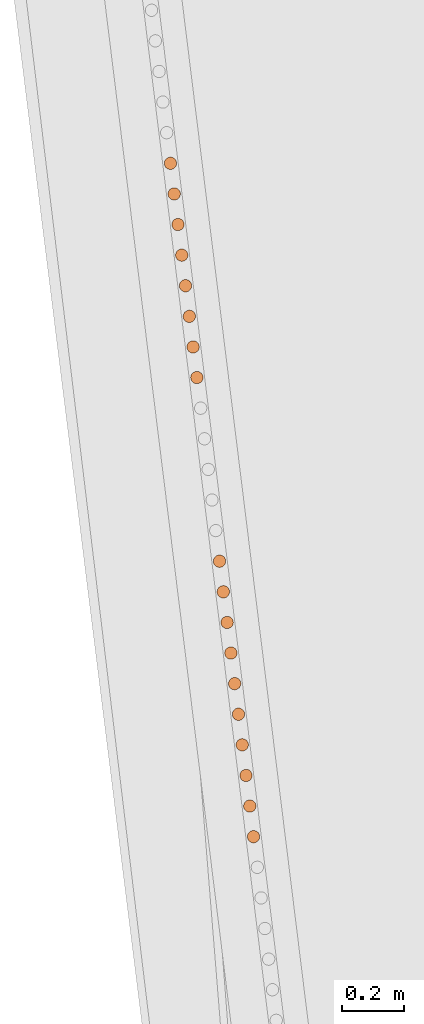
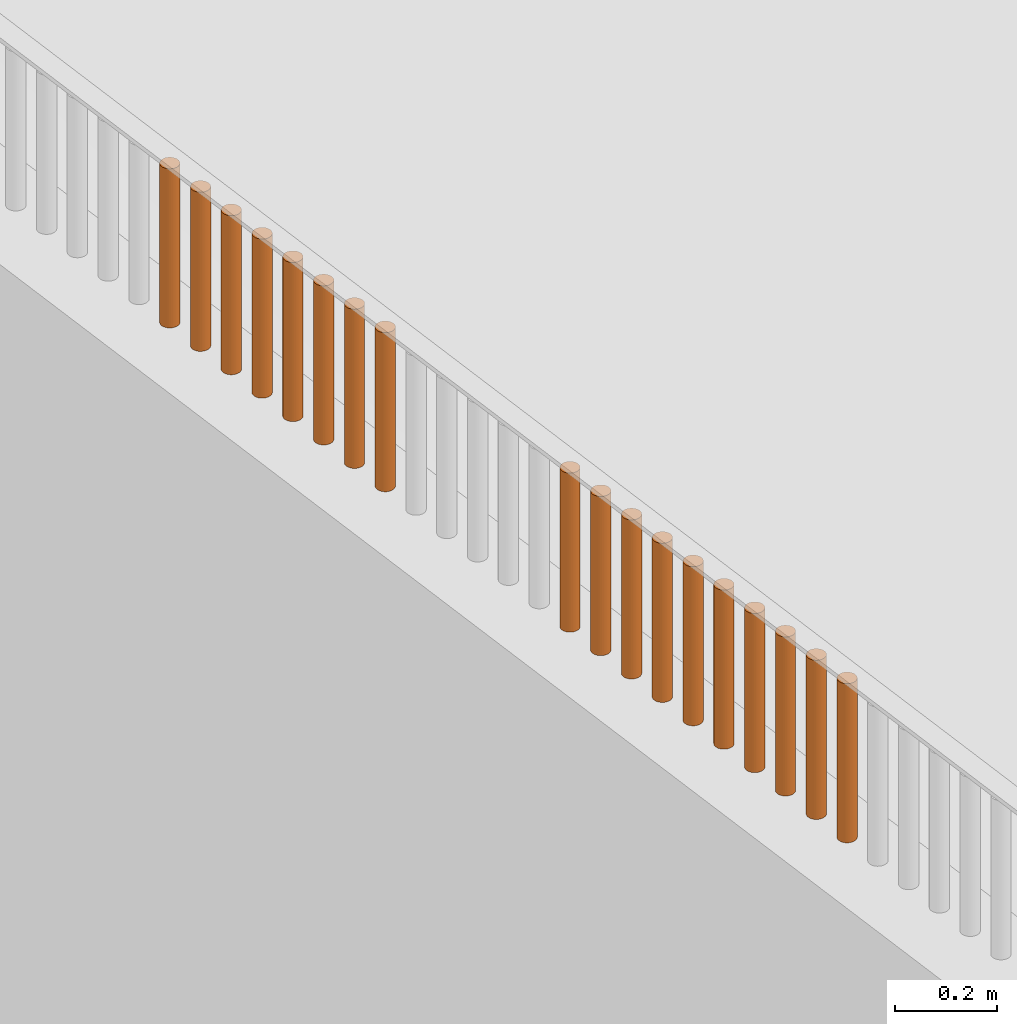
# One storey, part 61 of 1809: 18 proxies, 1 element without a shape of its own.
"""IFC2X3 building model written with IfcOpenShell, lengths in millimetres."""

from ifc_helpers import new_model, entity, si_unit, converted_unit, derived_unit, money_unit, direction, frame, origin_with_axes, place, context, subcontext, project, spatial, faceted_brep, source, transform, mapped, material, type_object, element, aggregate, save


model = new_model("IFC2X3")

# Units and contexts
model_context = context("Model", 3, precision=0.01, world=origin_with_axes(), true_north=direction((0.0, 1.0)))
body_context = subcontext(model_context, "Body", "Model", "MODEL_VIEW")
ifc_project = project(units=[si_unit("LENGTHUNIT", "METRE", prefix="MILLI"), si_unit("AREAUNIT", "SQUARE_METRE"), si_unit("VOLUMEUNIT", "CUBIC_METRE"), converted_unit("PLANEANGLEUNIT", "DEGREE", entity("IfcPlaneAngleMeasure", 0.0174532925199), si_unit("PLANEANGLEUNIT", "RADIAN"), dimensions=[0, 0, 0, 0, 0, 0, 0]), si_unit("SOLIDANGLEUNIT", "STERADIAN"), money_unit("EUR"), converted_unit("TIMEUNIT", "Year", entity("IfcTimeMeasure", 31556926.0), si_unit("TIMEUNIT", "SECOND"), dimensions=[0, 0, 1, 0, 0, 0, 0]), si_unit("MASSUNIT", "GRAM", prefix="KILO"), si_unit("THERMODYNAMICTEMPERATUREUNIT", "DEGREE_CELSIUS"), si_unit("LUMINOUSINTENSITYUNIT", "LUMEN"), si_unit("ENERGYUNIT", "JOULE", prefix="MEGA"), derived_unit("THERMALCONDUCTANCEUNIT", [(si_unit("POWERUNIT", "WATT"), 1), (si_unit("LENGTHUNIT", "METRE"), -1), (si_unit("THERMODYNAMICTEMPERATUREUNIT", "KELVIN"), -1)]), derived_unit("SPECIFICHEATCAPACITYUNIT", [(si_unit("ENERGYUNIT", "JOULE"), 1), (si_unit("MASSUNIT", "GRAM", prefix="KILO"), -1), (si_unit("THERMODYNAMICTEMPERATUREUNIT", "KELVIN"), -1)]), derived_unit("MASSDENSITYUNIT", [(si_unit("MASSUNIT", "GRAM", prefix="KILO"), 1), (si_unit("VOLUMEUNIT", "CUBIC_METRE"), -1)])], contexts=[model_context])

# Site, building, storey
site_placement = place(None, origin_with_axes())
site = spatial("IfcSite", under=ifc_project, at=site_placement, Name="Politse- ja Piirivalveameti ning Päästeameti ühishoone", CompositionType="ELEMENT")
building_placement = place(site_placement, origin_with_axes())
building = spatial("IfcBuilding", under=site, at=building_placement, Name="Politse- ja Piirivalveameti ning Päästeameti ühishoone", CompositionType="ELEMENT")
storey_placement = place(building_placement, origin_with_axes())
storey = spatial("IfcBuildingStorey", under=building, at=storey_placement, Name="Esimene korrus", CompositionType="ELEMENT", Elevation=0.0)

# Proxies
building_element_proxy_type_1 = type_object("IfcBuildingElementProxyType", Name="Railing Type", PredefinedType="NOTDEFINED")
proxy_1_placement = place(storey_placement, frame((-18956.5522504, -53688.4757966, 2100.0), z_axis=(0.0, 0.0, 1.0), x_axis=(1.0, 0.0, 0.0)))
proxy_1 = element("IfcBuildingElementProxy", 1, at=proxy_1_placement, inside=storey, type_object=building_element_proxy_type_1, Name="PIIRDEAED")
ifc_material = material(Name="ET-06_Teras - Konstruktsioon")
building_element_proxy_type_2 = type_object("IfcBuildingElementProxyType", Name="IfcBuildingElementProxy", PredefinedType="NOTDEFINED")
shared_shape_1 = source(origin_with_axes(), body_context, "Body", "Brep", [
    faceted_brep([(0.0, -20.0, 0.0), (3.47296355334, -19.6961550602, 0.0), (3.47296355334, -19.6961550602, 380.000012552), (0.0, -20.0, 380.000012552), (-3.47296355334, -19.6961550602, 0.0), (-6.84040286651, -18.7938524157, 0.0), (-10.0, -17.3205080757, 0.0), (-12.8557521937, -15.3208888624, 0.0), (-15.3208888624, -12.8557521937, 0.0), (-17.3205080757, -10.0, 0.0), (-18.7938524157, -6.84040286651, 0.0), (-19.6961550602, -3.47296355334, 0.0), (-20.0, 0.0, 0.0), (-19.6961550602, 3.47296355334, 0.0), (-18.7938524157, 6.84040286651, 0.0), (-17.3205080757, 10.0, 0.0), (-15.3208888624, 12.8557521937, 0.0), (-12.8557521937, 15.3208888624, 0.0), (-10.0, 17.3205080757, 0.0), (-6.84040286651, 18.7938524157, 0.0), (-3.47296355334, 19.6961550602, 0.0), (0.0, 20.0, 0.0), (3.47296355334, 19.6961550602, 0.0), (6.84040286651, 18.7938524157, 0.0), (10.0, 17.3205080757, 0.0), (12.8557521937, 15.3208888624, 0.0), (15.3208888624, 12.8557521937, 0.0), (17.3205080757, 10.0, 0.0), (18.7938524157, 6.84040286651, 0.0), (19.6961550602, 3.47296355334, 0.0), (20.0, 0.0, 0.0), (19.6961550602, -3.47296355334, 0.0), (18.7938524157, -6.84040286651, 0.0), (17.3205080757, -10.0, 0.0), (15.3208888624, -12.8557521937, 0.0), (12.8557521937, -15.3208888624, 0.0), (10.0, -17.3205080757, 0.0), (6.84040286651, -18.7938524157, 0.0), (6.84040286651, -18.7938524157, 380.000012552), (10.0, -17.3205080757, 380.000012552), (12.8557521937, -15.3208888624, 380.000012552), (15.3208888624, -12.8557521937, 380.000012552), (17.3205080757, -10.0, 380.000012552), (18.7938524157, -6.84040286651, 380.000012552), (19.6961550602, -3.47296355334, 380.000012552), (20.0, 0.0, 380.000012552), (19.6961550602, 3.47296355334, 380.000012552), (18.7938524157, 6.84040286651, 380.000012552), (17.3205080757, 10.0, 380.000012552), (15.3208888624, 12.8557521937, 380.000012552), (12.8557521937, 15.3208888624, 380.000012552), (10.0, 17.3205080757, 380.000012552), (6.84040286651, 18.7938524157, 380.000012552), (3.47296355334, 19.6961550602, 380.000012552), (0.0, 20.0, 380.000012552), (-3.47296355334, 19.6961550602, 380.000012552), (-6.84040286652, 18.7938524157, 380.000012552), (-10.0, 17.3205080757, 380.000012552), (-12.8557521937, 15.3208888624, 380.000012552), (-15.3208888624, 12.8557521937, 380.000012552), (-17.3205080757, 10.0, 380.000012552), (-18.7938524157, 6.84040286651, 380.000012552), (-19.6961550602, 3.47296355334, 380.000012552), (-20.0, 0.0, 380.000012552), (-19.6961550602, -3.47296355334, 380.000012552), (-18.7938524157, -6.84040286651, 380.000012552), (-17.3205080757, -10.0, 380.000012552), (-15.3208888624, -12.8557521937, 380.000012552), (-12.8557521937, -15.3208888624, 380.000012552), (-10.0, -17.3205080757, 380.000012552), (-6.84040286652, -18.7938524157, 380.000012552), (-3.47296355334, -19.6961550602, 380.000012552)], [[[0, 1, 2, 3]], [[0, 4, 5, 6, 7, 8, 9, 10, 11, 12, 13, 14, 15, 16, 17, 18, 19, 20, 21, 22, 23, 24, 25, 26, 27, 28, 29, 30, 31, 32, 33, 34, 35, 36, 37, 1]], [[1, 37, 38, 2]], [[3, 2, 38, 39, 40, 41, 42, 43, 44, 45, 46, 47, 48, 49, 50, 51, 52, 53, 54, 55, 56, 57, 58, 59, 60, 61, 62, 63, 64, 65, 66, 67, 68, 69, 70, 71]], [[4, 0, 3, 71]], [[5, 4, 71, 70]], [[6, 5, 70, 69]], [[7, 6, 69, 68]], [[8, 7, 68, 67]], [[9, 8, 67, 66]], [[10, 9, 66, 65]], [[11, 10, 65, 64]], [[12, 11, 64, 63]], [[13, 12, 63, 62]], [[14, 13, 62, 61]], [[15, 14, 61, 60]], [[16, 15, 60, 59]], [[17, 16, 59, 58]], [[18, 17, 58, 57]], [[19, 18, 57, 56]], [[20, 19, 56, 55]], [[21, 20, 55, 54]], [[22, 21, 54, 53]], [[23, 22, 53, 52]], [[24, 23, 52, 51]], [[25, 24, 51, 50]], [[26, 25, 50, 49]], [[27, 26, 49, 48]], [[28, 27, 48, 47]], [[29, 28, 47, 46]], [[30, 29, 46, 45]], [[31, 30, 45, 44]], [[32, 31, 44, 43]], [[33, 32, 43, 42]], [[34, 33, 42, 41]], [[35, 34, 41, 40]], [[36, 35, 40, 39]], [[37, 36, 39, 38]]]),
])
proxy_2_placement = place(proxy_1_placement, frame((-840.132842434, 5972.32366208, -1.25517001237e-05), z_axis=(0.0, 0.0, 1.0), x_axis=(1.0, 0.0, 0.0)))
proxy_2 = element("IfcBuildingElementProxy", 2, at=proxy_2_placement, type_object=building_element_proxy_type_2, material=ifc_material, Name="BALUSTER - 001", context=body_context, shape_type="MappedRepresentation", body=[
    mapped(shared_shape_1, transform((0.0, 0.0, 0.0), x_axis=(0.992468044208, 0.122503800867, 0.0), y_axis=(-0.122503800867, 0.992468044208, 0.0), z_axis=(0.0, 0.0, 1.0))),
])
proxy_3_placement = place(proxy_1_placement, frame((-876.875957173, 6269.99905636, -1.25517001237e-05), z_axis=(0.0, 0.0, 1.0), x_axis=(1.0, 0.0, 0.0)))
proxy_3 = element("IfcBuildingElementProxy", 3, at=proxy_3_placement, type_object=building_element_proxy_type_2, material=ifc_material, Name="BALUSTER - 001", context=body_context, shape_type="MappedRepresentation", body=[
    mapped(shared_shape_1, transform((0.0, 0.0, 0.0), x_axis=(0.992468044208, 0.122503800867, 0.0), y_axis=(-0.122503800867, 0.992468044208, 0.0), z_axis=(0.0, 0.0, 1.0))),
])
proxy_4_placement = place(proxy_1_placement, frame((-1023.84841613, 7460.70063347, -1.25517001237e-05), z_axis=(0.0, 0.0, 1.0), x_axis=(1.0, 0.0, 0.0)))
proxy_4 = element("IfcBuildingElementProxy", 4, at=proxy_4_placement, type_object=building_element_proxy_type_2, material=ifc_material, Name="BALUSTER - 001", context=body_context, shape_type="MappedRepresentation", body=[
    mapped(shared_shape_1, transform((0.0, 0.0, 0.0), x_axis=(0.992468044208, 0.122503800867, 0.0), y_axis=(-0.122503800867, 0.992468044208, 0.0), z_axis=(0.0, 0.0, 1.0))),
])
proxy_5_placement = place(proxy_1_placement, frame((-1060.59153087, 7758.37602774, -1.25517001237e-05), z_axis=(0.0, 0.0, 1.0), x_axis=(1.0, 0.0, 0.0)))
proxy_5 = element("IfcBuildingElementProxy", 5, at=proxy_5_placement, type_object=building_element_proxy_type_2, material=ifc_material, Name="BALUSTER - 001", context=body_context, shape_type="MappedRepresentation", body=[
    mapped(shared_shape_1, transform((0.0, 0.0, 0.0), x_axis=(0.992468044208, 0.122503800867, 0.0), y_axis=(-0.122503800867, 0.992468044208, 0.0), z_axis=(0.0, 0.0, 1.0))),
])
shared_shape_2 = source(origin_with_axes(), body_context, "Body", "Brep", [
    faceted_brep([(0.0, -20.0, 0.0), (3.47296355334, -19.6961550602, 0.0), (3.47296355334, -19.6961550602, 380.000012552), (0.0, -20.0, 380.000012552), (-3.47296355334, -19.6961550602, 0.0), (-6.84040286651, -18.7938524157, 0.0), (-10.0, -17.3205080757, 0.0), (-12.8557521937, -15.3208888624, 0.0), (-15.3208888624, -12.8557521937, 0.0), (-17.3205080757, -10.0, 0.0), (-18.7938524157, -6.84040286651, 0.0), (-19.6961550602, -3.47296355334, 0.0), (-20.0, 0.0, 0.0), (-19.6961550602, 3.47296355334, 0.0), (-18.7938524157, 6.84040286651, 0.0), (-17.3205080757, 10.0, 0.0), (-15.3208888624, 12.8557521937, 0.0), (-12.8557521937, 15.3208888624, 0.0), (-10.0, 17.3205080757, 0.0), (-6.84040286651, 18.7938524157, 0.0), (-3.47296355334, 19.6961550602, 0.0), (0.0, 20.0, 0.0), (3.47296355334, 19.6961550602, 0.0), (6.84040286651, 18.7938524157, 0.0), (10.0, 17.3205080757, 0.0), (12.8557521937, 15.3208888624, 0.0), (15.3208888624, 12.8557521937, 0.0), (17.3205080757, 10.0, 0.0), (18.7938524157, 6.84040286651, 0.0), (19.6961550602, 3.47296355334, 0.0), (20.0, 0.0, 0.0), (19.6961550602, -3.47296355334, 0.0), (18.7938524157, -6.84040286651, 0.0), (17.3205080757, -10.0, 0.0), (15.3208888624, -12.8557521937, 0.0), (12.8557521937, -15.3208888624, 0.0), (10.0, -17.3205080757, 0.0), (6.84040286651, -18.7938524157, 0.0), (6.84040286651, -18.7938524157, 380.000012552), (10.0, -17.3205080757, 380.000012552), (12.8557521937, -15.3208888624, 380.000012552), (15.3208888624, -12.8557521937, 380.000012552), (17.3205080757, -10.0, 380.000012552), (18.7938524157, -6.84040286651, 380.000012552), (19.6961550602, -3.47296355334, 380.000012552), (20.0, 0.0, 380.000012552), (19.6961550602, 3.47296355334, 380.000012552), (18.7938524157, 6.84040286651, 380.000012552), (17.3205080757, 10.0, 380.000012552), (15.3208888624, 12.8557521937, 380.000012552), (12.8557521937, 15.3208888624, 380.000012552), (10.0, 17.3205080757, 380.000012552), (6.84040286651, 18.7938524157, 380.000012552), (3.47296355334, 19.6961550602, 380.000012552), (0.0, 20.0, 380.000012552), (-3.47296355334, 19.6961550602, 380.000012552), (-6.84040286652, 18.7938524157, 380.000012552), (-10.0, 17.3205080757, 380.000012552), (-12.8557521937, 15.3208888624, 380.000012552), (-15.3208888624, 12.8557521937, 380.000012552), (-17.3205080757, 10.0, 380.000012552), (-18.7938524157, 6.84040286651, 380.000012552), (-19.6961550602, 3.47296355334, 380.000012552), (-20.0, 0.0, 380.000012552), (-19.6961550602, -3.47296355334, 380.000012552), (-18.7938524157, -6.84040286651, 380.000012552), (-17.3205080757, -10.0, 380.000012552), (-15.3208888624, -12.8557521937, 380.000012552), (-12.8557521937, -15.3208888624, 380.000012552), (-10.0, -17.3205080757, 380.000012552), (-6.84040286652, -18.7938524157, 380.000012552), (-3.47296355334, -19.6961550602, 380.000012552)], [[[0, 1, 2, 3]], [[0, 4, 5, 6, 7, 8, 9, 10, 11, 12, 13, 14, 15, 16, 17, 18, 19, 20, 21, 22, 23, 24, 25, 26, 27, 28, 29, 30, 31, 32, 33, 34, 35, 36, 37, 1]], [[1, 37, 38, 2]], [[3, 2, 38, 39, 40, 41, 42, 43, 44, 45, 46, 47, 48, 49, 50, 51, 52, 53, 54, 55, 56, 57, 58, 59, 60, 61, 62, 63, 64, 65, 66, 67, 68, 69, 70, 71]], [[4, 0, 3, 71]], [[5, 4, 71, 70]], [[6, 5, 70, 69]], [[7, 6, 69, 68]], [[8, 7, 68, 67]], [[9, 8, 67, 66]], [[10, 9, 66, 65]], [[11, 10, 65, 64]], [[12, 11, 64, 63]], [[13, 12, 63, 62]], [[14, 13, 62, 61]], [[15, 14, 61, 60]], [[16, 15, 60, 59]], [[17, 16, 59, 58]], [[18, 17, 58, 57]], [[19, 18, 57, 56]], [[20, 19, 56, 55]], [[21, 20, 55, 54]], [[22, 21, 54, 53]], [[23, 22, 53, 52]], [[24, 23, 52, 51]], [[25, 24, 51, 50]], [[26, 25, 50, 49]], [[27, 26, 49, 48]], [[28, 27, 48, 47]], [[29, 28, 47, 46]], [[30, 29, 46, 45]], [[31, 30, 45, 44]], [[32, 31, 44, 43]], [[33, 32, 43, 42]], [[34, 33, 42, 41]], [[35, 34, 41, 40]], [[36, 35, 40, 39]], [[37, 36, 39, 38]]]),
])
proxy_6_placement = place(proxy_1_placement, frame((-901.371367, 6468.44931921, -1.25517001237e-05), z_axis=(0.0, 0.0, 1.0), x_axis=(1.0, 0.0, 0.0)))
proxy_6 = element("IfcBuildingElementProxy", 6, at=proxy_6_placement, type_object=building_element_proxy_type_2, material=ifc_material, Name="BALUSTER - 001", context=body_context, shape_type="MappedRepresentation", body=[
    mapped(shared_shape_2, transform((0.0, 0.0, 0.0), x_axis=(0.992468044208, 0.122503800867, 0.0), y_axis=(-0.122503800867, 0.992468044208, 0.0), z_axis=(0.0, 0.0, 1.0))),
])
proxy_7_placement = place(proxy_1_placement, frame((-913.619071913, 6567.67445064, -1.25517001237e-05), z_axis=(0.0, 0.0, 1.0), x_axis=(1.0, 0.0, 0.0)))
proxy_7 = element("IfcBuildingElementProxy", 7, at=proxy_7_placement, type_object=building_element_proxy_type_2, material=ifc_material, Name="BALUSTER - 001", context=body_context, shape_type="MappedRepresentation", body=[
    mapped(shared_shape_2, transform((0.0, 0.0, 0.0), x_axis=(0.992468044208, 0.122503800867, 0.0), y_axis=(-0.122503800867, 0.992468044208, 0.0), z_axis=(0.0, 0.0, 1.0))),
])
proxy_8_placement = place(proxy_1_placement, frame((-938.114481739, 6766.12471349, -1.25517001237e-05), z_axis=(0.0, 0.0, 1.0), x_axis=(1.0, 0.0, 0.0)))
proxy_8 = element("IfcBuildingElementProxy", 8, at=proxy_8_placement, type_object=building_element_proxy_type_2, material=ifc_material, Name="BALUSTER - 001", context=body_context, shape_type="MappedRepresentation", body=[
    mapped(shared_shape_2, transform((0.0, 0.0, 0.0), x_axis=(0.992468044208, 0.122503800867, 0.0), y_axis=(-0.122503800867, 0.992468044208, 0.0), z_axis=(0.0, 0.0, 1.0))),
])
proxy_9_placement = place(proxy_1_placement, frame((-950.362186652, 6865.34984491, -1.25517001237e-05), z_axis=(0.0, 0.0, 1.0), x_axis=(1.0, 0.0, 0.0)))
proxy_9 = element("IfcBuildingElementProxy", 9, at=proxy_9_placement, type_object=building_element_proxy_type_2, material=ifc_material, Name="BALUSTER - 001", context=body_context, shape_type="MappedRepresentation", body=[
    mapped(shared_shape_2, transform((0.0, 0.0, 0.0), x_axis=(0.992468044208, 0.122503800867, 0.0), y_axis=(-0.122503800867, 0.992468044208, 0.0), z_axis=(0.0, 0.0, 1.0))),
])
proxy_10_placement = place(proxy_1_placement, frame((-1072.83923578, 7857.60115917, -1.25517001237e-05), z_axis=(0.0, 0.0, 1.0), x_axis=(1.0, 0.0, 0.0)))
proxy_10 = element("IfcBuildingElementProxy", 10, at=proxy_10_placement, type_object=building_element_proxy_type_2, material=ifc_material, Name="BALUSTER - 001", context=body_context, shape_type="MappedRepresentation", body=[
    mapped(shared_shape_2, transform((0.0, 0.0, 0.0), x_axis=(0.992468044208, 0.122503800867, 0.0), y_axis=(-0.122503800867, 0.992468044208, 0.0), z_axis=(0.0, 0.0, 1.0))),
])
proxy_11_placement = place(proxy_1_placement, frame((-1085.0869407, 7956.82629059, -1.25517001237e-05), z_axis=(0.0, 0.0, 1.0), x_axis=(1.0, 0.0, 0.0)))
proxy_11 = element("IfcBuildingElementProxy", 11, at=proxy_11_placement, type_object=building_element_proxy_type_2, material=ifc_material, Name="BALUSTER - 001", context=body_context, shape_type="MappedRepresentation", body=[
    mapped(shared_shape_2, transform((0.0, 0.0, 0.0), x_axis=(0.992468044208, 0.122503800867, 0.0), y_axis=(-0.122503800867, 0.992468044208, 0.0), z_axis=(0.0, 0.0, 1.0))),
])
proxy_12_placement = place(proxy_1_placement, frame((-1109.58235052, 8155.27655344, -1.25517001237e-05), z_axis=(0.0, 0.0, 1.0), x_axis=(1.0, 0.0, 0.0)))
proxy_12 = element("IfcBuildingElementProxy", 12, at=proxy_12_placement, type_object=building_element_proxy_type_2, material=ifc_material, Name="BALUSTER - 001", context=body_context, shape_type="MappedRepresentation", body=[
    mapped(shared_shape_2, transform((0.0, 0.0, 0.0), x_axis=(0.992468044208, 0.122503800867, 0.0), y_axis=(-0.122503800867, 0.992468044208, 0.0), z_axis=(0.0, 0.0, 1.0))),
])
shared_shape_3 = source(origin_with_axes(), body_context, "Body", "Brep", [
    faceted_brep([(0.0, -20.0, 0.0), (3.47296355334, -19.6961550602, 0.0), (3.47296355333, -19.6961550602, 380.000012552), (0.0, -20.0, 380.000012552), (-3.47296355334, -19.6961550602, 0.0), (-6.84040286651, -18.7938524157, 0.0), (-10.0, -17.3205080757, 0.0), (-12.8557521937, -15.3208888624, 0.0), (-15.3208888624, -12.8557521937, 0.0), (-17.3205080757, -10.0, 0.0), (-18.7938524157, -6.84040286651, 0.0), (-19.6961550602, -3.47296355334, 0.0), (-20.0, 0.0, 0.0), (-19.6961550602, 3.47296355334, 0.0), (-18.7938524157, 6.84040286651, 0.0), (-17.3205080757, 10.0, 0.0), (-15.3208888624, 12.8557521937, 0.0), (-12.8557521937, 15.3208888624, 0.0), (-10.0, 17.3205080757, 0.0), (-6.84040286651, 18.7938524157, 0.0), (-3.47296355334, 19.6961550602, 0.0), (0.0, 20.0, 0.0), (3.47296355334, 19.6961550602, 0.0), (6.84040286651, 18.7938524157, 0.0), (10.0, 17.3205080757, 0.0), (12.8557521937, 15.3208888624, 0.0), (15.3208888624, 12.8557521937, 0.0), (17.3205080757, 10.0, 0.0), (18.7938524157, 6.84040286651, 0.0), (19.6961550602, 3.47296355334, 0.0), (20.0, 0.0, 0.0), (19.6961550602, -3.47296355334, 0.0), (18.7938524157, -6.84040286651, 0.0), (17.3205080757, -10.0, 0.0), (15.3208888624, -12.8557521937, 0.0), (12.8557521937, -15.3208888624, 0.0), (10.0, -17.3205080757, 0.0), (6.84040286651, -18.7938524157, 0.0), (6.84040286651, -18.7938524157, 380.000012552), (9.99999999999, -17.3205080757, 380.000012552), (12.8557521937, -15.3208888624, 380.000012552), (15.3208888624, -12.8557521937, 380.000012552), (17.3205080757, -10.0, 380.000012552), (18.7938524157, -6.84040286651, 380.000012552), (19.6961550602, -3.47296355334, 380.000012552), (20.0, 0.0, 380.000012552), (19.6961550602, 3.47296355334, 380.000012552), (18.7938524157, 6.84040286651, 380.000012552), (17.3205080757, 10.0, 380.000012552), (15.3208888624, 12.8557521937, 380.000012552), (12.8557521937, 15.3208888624, 380.000012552), (9.99999999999, 17.3205080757, 380.000012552), (6.84040286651, 18.7938524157, 380.000012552), (3.47296355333, 19.6961550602, 380.000012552), (0.0, 20.0, 380.000012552), (-3.47296355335, 19.6961550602, 380.000012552), (-6.84040286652, 18.7938524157, 380.000012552), (-10.0, 17.3205080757, 380.000012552), (-12.8557521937, 15.3208888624, 380.000012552), (-15.3208888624, 12.8557521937, 380.000012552), (-17.3205080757, 10.0, 380.000012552), (-18.7938524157, 6.84040286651, 380.000012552), (-19.6961550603, 3.47296355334, 380.000012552), (-20.0, 0.0, 380.000012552), (-19.6961550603, -3.47296355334, 380.000012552), (-18.7938524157, -6.84040286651, 380.000012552), (-17.3205080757, -10.0, 380.000012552), (-15.3208888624, -12.8557521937, 380.000012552), (-12.8557521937, -15.3208888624, 380.000012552), (-10.0, -17.3205080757, 380.000012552), (-6.84040286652, -18.7938524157, 380.000012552), (-3.47296355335, -19.6961550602, 380.000012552)], [[[0, 1, 2, 3]], [[0, 4, 5, 6, 7, 8, 9, 10, 11, 12, 13, 14, 15, 16, 17, 18, 19, 20, 21, 22, 23, 24, 25, 26, 27, 28, 29, 30, 31, 32, 33, 34, 35, 36, 37, 1]], [[1, 37, 38, 2]], [[3, 2, 38, 39, 40, 41, 42, 43, 44, 45, 46, 47, 48, 49, 50, 51, 52, 53, 54, 55, 56, 57, 58, 59, 60, 61, 62, 63, 64, 65, 66, 67, 68, 69, 70, 71]], [[4, 0, 3, 71]], [[5, 4, 71, 70]], [[6, 5, 70, 69]], [[7, 6, 69, 68]], [[8, 7, 68, 67]], [[9, 8, 67, 66]], [[10, 9, 66, 65]], [[11, 10, 65, 64]], [[12, 11, 64, 63]], [[13, 12, 63, 62]], [[14, 13, 62, 61]], [[15, 14, 61, 60]], [[16, 15, 60, 59]], [[17, 16, 59, 58]], [[18, 17, 58, 57]], [[19, 18, 57, 56]], [[20, 19, 56, 55]], [[21, 20, 55, 54]], [[22, 21, 54, 53]], [[23, 22, 53, 52]], [[24, 23, 52, 51]], [[25, 24, 51, 50]], [[26, 25, 50, 49]], [[27, 26, 49, 48]], [[28, 27, 48, 47]], [[29, 28, 47, 46]], [[30, 29, 46, 45]], [[31, 30, 45, 44]], [[32, 31, 44, 43]], [[33, 32, 43, 42]], [[34, 33, 42, 41]], [[35, 34, 41, 40]], [[36, 35, 40, 39]], [[37, 36, 39, 38]]]),
])
proxy_13_placement = place(proxy_1_placement, frame((-1036.09612104, 7559.92576489, -1.25517001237e-05), z_axis=(0.0, 0.0, 1.0), x_axis=(1.0, 0.0, 0.0)))
proxy_13 = element("IfcBuildingElementProxy", 13, at=proxy_13_placement, type_object=building_element_proxy_type_2, material=ifc_material, Name="BALUSTER - 001", context=body_context, shape_type="MappedRepresentation", body=[
    mapped(shared_shape_3, transform((0.0, 0.0, 0.0), x_axis=(0.992468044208, 0.122503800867, 0.0), y_axis=(-0.122503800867, 0.992468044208, 0.0), z_axis=(0.0, 0.0, 1.0))),
])
shared_shape_4 = source(origin_with_axes(), body_context, "Body", "Brep", [
    faceted_brep([(0.0, -20.0, 0.0), (3.47296355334, -19.6961550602, 0.0), (3.47296355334, -19.6961550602, 380.000012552), (0.0, -20.0, 380.000012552), (-3.47296355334, -19.6961550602, 0.0), (-6.84040286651, -18.7938524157, 0.0), (-10.0, -17.3205080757, 0.0), (-12.8557521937, -15.3208888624, 0.0), (-15.3208888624, -12.8557521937, 0.0), (-17.3205080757, -10.0, 0.0), (-18.7938524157, -6.84040286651, 0.0), (-19.6961550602, -3.47296355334, 0.0), (-20.0, 0.0, 0.0), (-19.6961550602, 3.47296355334, 0.0), (-18.7938524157, 6.84040286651, 0.0), (-17.3205080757, 10.0, 0.0), (-15.3208888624, 12.8557521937, 0.0), (-12.8557521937, 15.3208888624, 0.0), (-10.0, 17.3205080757, 0.0), (-6.84040286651, 18.7938524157, 0.0), (-3.47296355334, 19.6961550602, 0.0), (0.0, 20.0, 0.0), (3.47296355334, 19.6961550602, 0.0), (6.84040286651, 18.7938524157, 0.0), (10.0, 17.3205080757, 0.0), (12.8557521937, 15.3208888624, 0.0), (15.3208888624, 12.8557521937, 0.0), (17.3205080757, 10.0, 0.0), (18.7938524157, 6.84040286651, 0.0), (19.6961550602, 3.47296355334, 0.0), (20.0, 0.0, 0.0), (19.6961550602, -3.47296355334, 0.0), (18.7938524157, -6.84040286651, 0.0), (17.3205080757, -10.0, 0.0), (15.3208888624, -12.8557521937, 0.0), (12.8557521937, -15.3208888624, 0.0), (10.0, -17.3205080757, 0.0), (6.84040286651, -18.7938524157, 0.0), (6.84040286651, -18.7938524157, 380.000012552), (10.0, -17.3205080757, 380.000012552), (12.8557521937, -15.3208888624, 380.000012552), (15.3208888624, -12.8557521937, 380.000012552), (17.3205080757, -10.0, 380.000012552), (18.7938524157, -6.84040286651, 380.000012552), (19.6961550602, -3.47296355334, 380.000012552), (20.0, 0.0, 380.000012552), (19.6961550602, 3.47296355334, 380.000012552), (18.7938524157, 6.84040286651, 380.000012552), (17.3205080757, 10.0, 380.000012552), (15.3208888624, 12.8557521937, 380.000012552), (12.8557521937, 15.3208888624, 380.000012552), (10.0, 17.3205080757, 380.000012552), (6.84040286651, 18.7938524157, 380.000012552), (3.47296355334, 19.6961550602, 380.000012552), (0.0, 20.0, 380.000012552), (-3.47296355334, 19.6961550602, 380.000012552), (-6.84040286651, 18.7938524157, 380.000012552), (-10.0, 17.3205080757, 380.000012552), (-12.8557521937, 15.3208888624, 380.000012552), (-15.3208888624, 12.8557521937, 380.000012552), (-17.3205080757, 10.0, 380.000012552), (-18.7938524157, 6.84040286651, 380.000012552), (-19.6961550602, 3.47296355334, 380.000012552), (-20.0, 0.0, 380.000012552), (-19.6961550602, -3.47296355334, 380.000012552), (-18.7938524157, -6.84040286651, 380.000012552), (-17.3205080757, -10.0, 380.000012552), (-15.3208888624, -12.8557521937, 380.000012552), (-12.8557521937, -15.3208888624, 380.000012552), (-10.0, -17.3205080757, 380.000012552), (-6.84040286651, -18.7938524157, 380.000012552), (-3.47296355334, -19.6961550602, 380.000012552)], [[[0, 1, 2, 3]], [[0, 4, 5, 6, 7, 8, 9, 10, 11, 12, 13, 14, 15, 16, 17, 18, 19, 20, 21, 22, 23, 24, 25, 26, 27, 28, 29, 30, 31, 32, 33, 34, 35, 36, 37, 1]], [[1, 37, 38, 2]], [[3, 2, 38, 39, 40, 41, 42, 43, 44, 45, 46, 47, 48, 49, 50, 51, 52, 53, 54, 55, 56, 57, 58, 59, 60, 61, 62, 63, 64, 65, 66, 67, 68, 69, 70, 71]], [[4, 0, 3, 71]], [[5, 4, 71, 70]], [[6, 5, 70, 69]], [[7, 6, 69, 68]], [[8, 7, 68, 67]], [[9, 8, 67, 66]], [[10, 9, 66, 65]], [[11, 10, 65, 64]], [[12, 11, 64, 63]], [[13, 12, 63, 62]], [[14, 13, 62, 61]], [[15, 14, 61, 60]], [[16, 15, 60, 59]], [[17, 16, 59, 58]], [[18, 17, 58, 57]], [[19, 18, 57, 56]], [[20, 19, 56, 55]], [[21, 20, 55, 54]], [[22, 21, 54, 53]], [[23, 22, 53, 52]], [[24, 23, 52, 51]], [[25, 24, 51, 50]], [[26, 25, 50, 49]], [[27, 26, 49, 48]], [[28, 27, 48, 47]], [[29, 28, 47, 46]], [[30, 29, 46, 45]], [[31, 30, 45, 44]], [[32, 31, 44, 43]], [[33, 32, 43, 42]], [[34, 33, 42, 41]], [[35, 34, 41, 40]], [[36, 35, 40, 39]], [[37, 36, 39, 38]]]),
])
proxy_14_placement = place(proxy_1_placement, frame((-852.380547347, 6071.54879351, -1.25517001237e-05), z_axis=(0.0, 0.0, 1.0), x_axis=(1.0, 0.0, 0.0)))
proxy_14 = element("IfcBuildingElementProxy", 14, at=proxy_14_placement, type_object=building_element_proxy_type_2, material=ifc_material, Name="BALUSTER - 001", context=body_context, shape_type="MappedRepresentation", body=[
    mapped(shared_shape_4, transform((0.0, 0.0, 0.0), x_axis=(0.992468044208, 0.122503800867, 0.0), y_axis=(-0.122503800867, 0.992468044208, 0.0), z_axis=(0.0, 0.0, 1.0))),
])
proxy_15_placement = place(proxy_1_placement, frame((-1048.34382596, 7659.15089632, -1.25517001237e-05), z_axis=(0.0, 0.0, 1.0), x_axis=(1.0, 0.0, 0.0)))
proxy_15 = element("IfcBuildingElementProxy", 15, at=proxy_15_placement, type_object=building_element_proxy_type_2, material=ifc_material, Name="BALUSTER - 001", context=body_context, shape_type="MappedRepresentation", body=[
    mapped(shared_shape_4, transform((0.0, 0.0, 0.0), x_axis=(0.992468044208, 0.122503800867, 0.0), y_axis=(-0.122503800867, 0.992468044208, 0.0), z_axis=(0.0, 0.0, 1.0))),
])
proxy_16_placement = place(proxy_1_placement, frame((-1097.33464561, 8056.05142202, -1.25517001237e-05), z_axis=(0.0, 0.0, 1.0), x_axis=(1.0, 0.0, 0.0)))
proxy_16 = element("IfcBuildingElementProxy", 16, at=proxy_16_placement, type_object=building_element_proxy_type_2, material=ifc_material, Name="BALUSTER - 001", context=body_context, shape_type="MappedRepresentation", body=[
    mapped(shared_shape_4, transform((0.0, 0.0, 0.0), x_axis=(0.992468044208, 0.122503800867, 0.0), y_axis=(-0.122503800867, 0.992468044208, 0.0), z_axis=(0.0, 0.0, 1.0))),
])
shared_shape_5 = source(origin_with_axes(), body_context, "Body", "Brep", [
    faceted_brep([(0.0, -20.0, 0.0), (3.47296355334, -19.6961550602, 0.0), (3.47296355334, -19.6961550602, 380.000012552), (0.0, -20.0, 380.000012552), (-3.47296355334, -19.6961550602, 0.0), (-6.84040286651, -18.7938524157, 0.0), (-10.0, -17.3205080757, 0.0), (-12.8557521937, -15.3208888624, 0.0), (-15.3208888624, -12.8557521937, 0.0), (-17.3205080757, -10.0, 0.0), (-18.7938524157, -6.84040286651, 0.0), (-19.6961550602, -3.47296355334, 0.0), (-20.0, 0.0, 0.0), (-19.6961550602, 3.47296355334, 0.0), (-18.7938524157, 6.84040286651, 0.0), (-17.3205080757, 10.0, 0.0), (-15.3208888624, 12.8557521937, 0.0), (-12.8557521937, 15.3208888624, 0.0), (-10.0, 17.3205080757, 0.0), (-6.84040286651, 18.7938524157, 0.0), (-3.47296355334, 19.6961550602, 0.0), (0.0, 20.0, 0.0), (3.47296355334, 19.6961550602, 0.0), (6.84040286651, 18.7938524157, 0.0), (10.0, 17.3205080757, 0.0), (12.8557521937, 15.3208888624, 0.0), (15.3208888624, 12.8557521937, 0.0), (17.3205080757, 10.0, 0.0), (18.7938524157, 6.84040286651, 0.0), (19.6961550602, 3.47296355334, 0.0), (20.0, 0.0, 0.0), (19.6961550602, -3.47296355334, 0.0), (18.7938524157, -6.84040286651, 0.0), (17.3205080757, -10.0, 0.0), (15.3208888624, -12.8557521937, 0.0), (12.8557521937, -15.3208888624, 0.0), (10.0, -17.3205080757, 0.0), (6.84040286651, -18.7938524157, 0.0), (6.84040286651, -18.7938524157, 380.000012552), (10.0, -17.3205080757, 380.000012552), (12.8557521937, -15.3208888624, 380.000012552), (15.3208888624, -12.8557521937, 380.000012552), (17.3205080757, -10.0, 380.000012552), (18.7938524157, -6.84040286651, 380.000012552), (19.6961550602, -3.47296355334, 380.000012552), (20.0, 0.0, 380.000012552), (19.6961550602, 3.47296355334, 380.000012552), (18.7938524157, 6.84040286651, 380.000012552), (17.3205080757, 10.0, 380.000012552), (15.3208888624, 12.8557521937, 380.000012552), (12.8557521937, 15.3208888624, 380.000012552), (10.0, 17.3205080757, 380.000012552), (6.84040286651, 18.7938524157, 380.000012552), (3.47296355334, 19.6961550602, 380.000012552), (0.0, 20.0, 380.000012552), (-3.47296355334, 19.6961550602, 380.000012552), (-6.84040286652, 18.7938524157, 380.000012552), (-10.0, 17.3205080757, 380.000012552), (-12.8557521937, 15.3208888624, 380.000012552), (-15.3208888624, 12.8557521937, 380.000012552), (-17.3205080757, 10.0, 380.000012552), (-18.7938524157, 6.84040286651, 380.000012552), (-19.6961550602, 3.47296355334, 380.000012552), (-20.0, 0.0, 380.000012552), (-19.6961550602, -3.47296355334, 380.000012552), (-18.7938524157, -6.84040286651, 380.000012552), (-17.3205080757, -10.0, 380.000012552), (-15.3208888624, -12.8557521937, 380.000012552), (-12.8557521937, -15.3208888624, 380.000012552), (-10.0, -17.3205080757, 380.000012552), (-6.84040286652, -18.7938524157, 380.000012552), (-3.47296355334, -19.6961550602, 380.000012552)], [[[0, 1, 2, 3]], [[0, 4, 5, 6, 7, 8, 9, 10, 11, 12, 13, 14, 15, 16, 17, 18, 19, 20, 21, 22, 23, 24, 25, 26, 27, 28, 29, 30, 31, 32, 33, 34, 35, 36, 37, 1]], [[1, 37, 38, 2]], [[3, 2, 38, 39, 40, 41, 42, 43, 44, 45, 46, 47, 48, 49, 50, 51, 52, 53, 54, 55, 56, 57, 58, 59, 60, 61, 62, 63, 64, 65, 66, 67, 68, 69, 70, 71]], [[4, 0, 3, 71]], [[5, 4, 71, 70]], [[6, 5, 70, 69]], [[7, 6, 69, 68]], [[8, 7, 68, 67]], [[9, 8, 67, 66]], [[10, 9, 66, 65]], [[11, 10, 65, 64]], [[12, 11, 64, 63]], [[13, 12, 63, 62]], [[14, 13, 62, 61]], [[15, 14, 61, 60]], [[16, 15, 60, 59]], [[17, 16, 59, 58]], [[18, 17, 58, 57]], [[19, 18, 57, 56]], [[20, 19, 56, 55]], [[21, 20, 55, 54]], [[22, 21, 54, 53]], [[23, 22, 53, 52]], [[24, 23, 52, 51]], [[25, 24, 51, 50]], [[26, 25, 50, 49]], [[27, 26, 49, 48]], [[28, 27, 48, 47]], [[29, 28, 47, 46]], [[30, 29, 46, 45]], [[31, 30, 45, 44]], [[32, 31, 44, 43]], [[33, 32, 43, 42]], [[34, 33, 42, 41]], [[35, 34, 41, 40]], [[36, 35, 40, 39]], [[37, 36, 39, 38]]]),
])
proxy_17_placement = place(proxy_1_placement, frame((-864.62825226, 6170.77392494, -1.25517001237e-05), z_axis=(0.0, 0.0, 1.0), x_axis=(1.0, 0.0, 0.0)))
proxy_17 = element("IfcBuildingElementProxy", 17, at=proxy_17_placement, type_object=building_element_proxy_type_2, material=ifc_material, Name="BALUSTER - 001", context=body_context, shape_type="MappedRepresentation", body=[
    mapped(shared_shape_5, transform((0.0, 0.0, 0.0), x_axis=(0.992468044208, 0.122503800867, 0.0), y_axis=(-0.122503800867, 0.992468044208, 0.0), z_axis=(0.0, 0.0, 1.0))),
])
proxy_18_placement = place(proxy_1_placement, frame((-889.123662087, 6369.22418779, -1.25517001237e-05), z_axis=(0.0, 0.0, 1.0), x_axis=(1.0, 0.0, 0.0)))
proxy_18 = element("IfcBuildingElementProxy", 18, at=proxy_18_placement, type_object=building_element_proxy_type_2, material=ifc_material, Name="BALUSTER - 001", context=body_context, shape_type="MappedRepresentation", body=[
    mapped(shared_shape_5, transform((0.0, 0.0, 0.0), x_axis=(0.992468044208, 0.122503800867, 0.0), y_axis=(-0.122503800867, 0.992468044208, 0.0), z_axis=(0.0, 0.0, 1.0))),
])
proxy_19_placement = place(proxy_1_placement, frame((-925.866776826, 6666.89958206, -1.25517001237e-05), z_axis=(0.0, 0.0, 1.0), x_axis=(1.0, 0.0, 0.0)))
proxy_19 = element("IfcBuildingElementProxy", 19, at=proxy_19_placement, type_object=building_element_proxy_type_2, material=ifc_material, Name="BALUSTER - 001", context=body_context, shape_type="MappedRepresentation", body=[
    mapped(shared_shape_5, transform((0.0, 0.0, 0.0), x_axis=(0.992468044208, 0.122503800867, 0.0), y_axis=(-0.122503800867, 0.992468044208, 0.0), z_axis=(0.0, 0.0, 1.0))),
])
aggregate(proxy_1, [proxy_2, proxy_14, proxy_17, proxy_3, proxy_18, proxy_6, proxy_7, proxy_19, proxy_8, proxy_9, proxy_4, proxy_13, proxy_15, proxy_5, proxy_10, proxy_11, proxy_16, proxy_12])

save(model, "model.ifc")
